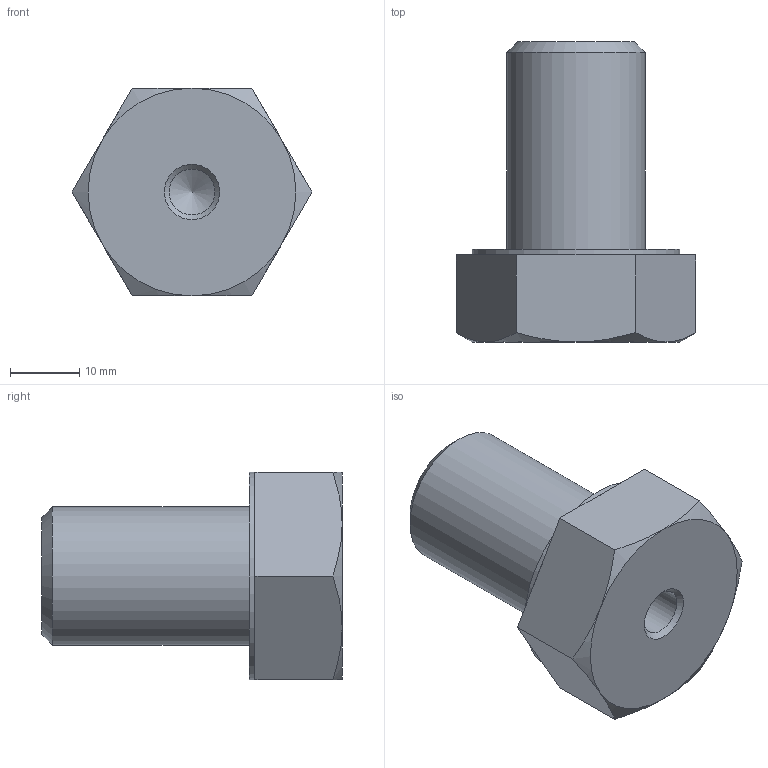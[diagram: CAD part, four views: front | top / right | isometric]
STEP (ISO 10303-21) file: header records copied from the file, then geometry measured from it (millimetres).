
FILE_DESCRIPTION(/* description */ ('STEP AP203'),/* implementation_level */ '2;1');
FILE_NAME(/* name */ 'E30538',/* time_stamp */ '2024-12-13T10:15:42+01:00',/* author */ ('License CC BY-ND 4.0'),/* organization */ ('CADENAS'),/* preprocessor_version */ 'ST-DEVELOPER v19.3',/* originating_system */ 'PARTsolutions',/* authorisation */ ' ');
FILE_SCHEMA (('CONFIG_CONTROL_DESIGN'));
Length unit declared in the file: millimetre
Products named in the file (1): E30538
Bounding box: 34.64 x 43.4 x 30 mm (x, y, z)
Volume: 19197.2 mm3; surface area: 5023 mm2
Topology: 1 solids, 1 shells, 27 faces, 56 edges, 32 vertices
Faces by surface type: plane 15, cone 9, cylinder 3
Full cylindrical faces by diameter (mm): 6.647 x1, 20 x1, 30 x1
Entity records: 708 total; most frequent: CARTESIAN_POINT 145, DIRECTION 112, ORIENTED_EDGE 98, EDGE_CURVE 49, AXIS2_PLACEMENT_3D 47, FACE_BOUND 35, EDGE_LOOP 34, VERTEX_POINT 32
